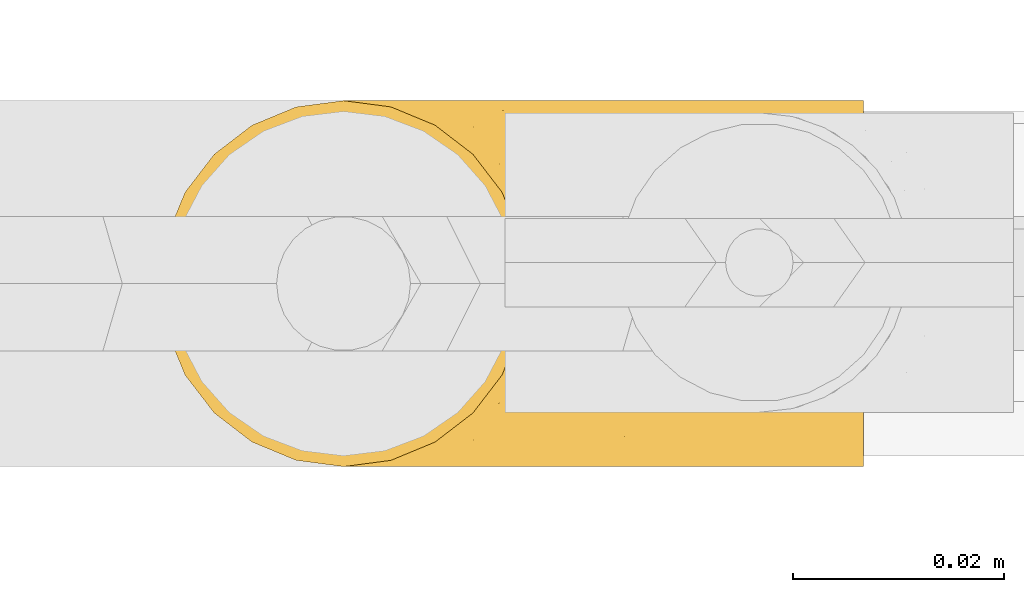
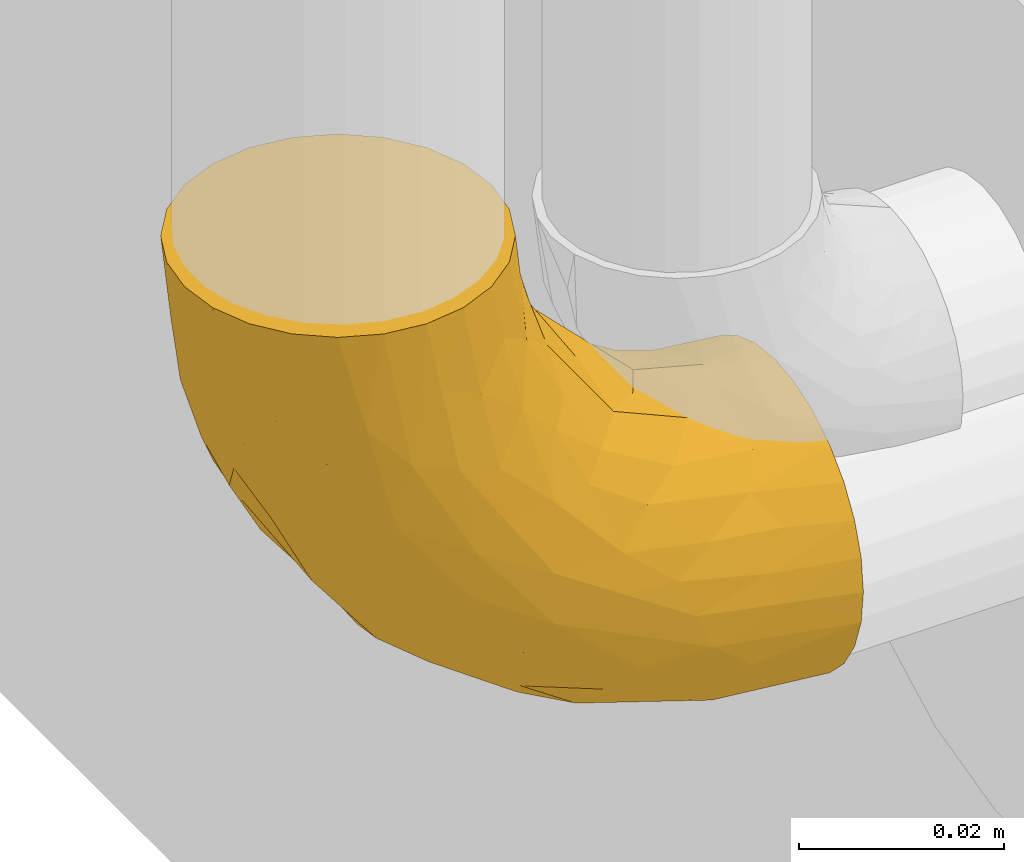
# One storey, part 6 of 32: 1 covering.
"""IFC2X3 building model written with IfcOpenShell, lengths in metres."""

from ifc_helpers import new_model, entity, si_unit, converted_unit, derived_unit, direction, frame, origin, place, context, subcontext, project, spatial, faceted_brep, material, type_object, element, save


model = new_model("IFC2X3")

# Units and contexts
model_context = context("Model", 3, precision=1e-05, world=origin(), true_north=direction((6.123031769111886e-17, 1.0)))
body_context = subcontext(model_context, "Body", "Model", "MODEL_VIEW")
ifc_project = project(units=[si_unit("LENGTHUNIT", "METRE"), si_unit("AREAUNIT", "SQUARE_METRE"), si_unit("VOLUMEUNIT", "CUBIC_METRE"), converted_unit("PLANEANGLEUNIT", "DEGREE", entity("IfcPlaneAngleMeasure", 0.017453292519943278), si_unit("PLANEANGLEUNIT", "RADIAN"), dimensions=[0, 0, 0, 0, 0, 0, 0]), si_unit("MASSUNIT", "GRAM", prefix="KILO"), derived_unit("MASSDENSITYUNIT", [(si_unit("MASSUNIT", "GRAM", prefix="KILO"), 1), (si_unit("LENGTHUNIT", "METRE"), -3)]), derived_unit("IONCONCENTRATIONUNIT", [(si_unit("MASSUNIT", "GRAM", prefix="KILO"), 1), (si_unit("LENGTHUNIT", "METRE"), -3)]), derived_unit("MOMENTOFINERTIAUNIT", [(si_unit("LENGTHUNIT", "METRE"), 4)]), si_unit("TIMEUNIT", "SECOND"), si_unit("FREQUENCYUNIT", "HERTZ"), si_unit("THERMODYNAMICTEMPERATUREUNIT", "DEGREE_CELSIUS"), derived_unit("THERMALTRANSMITTANCEUNIT", [(si_unit("MASSUNIT", "GRAM", prefix="KILO"), 1), (si_unit("THERMODYNAMICTEMPERATUREUNIT", "KELVIN"), -1), (si_unit("TIMEUNIT", "SECOND"), -3)]), derived_unit("THERMALCONDUCTANCEUNIT", [(si_unit("MASSUNIT", "GRAM", prefix="KILO"), 1), (si_unit("THERMODYNAMICTEMPERATUREUNIT", "KELVIN"), -1), (si_unit("TIMEUNIT", "SECOND"), -3), (si_unit("LENGTHUNIT", "METRE"), 1)]), derived_unit("VOLUMETRICFLOWRATEUNIT", [(si_unit("LENGTHUNIT", "METRE", prefix="DECI"), 3), (si_unit("TIMEUNIT", "SECOND"), -1)]), derived_unit("MASSFLOWRATEUNIT", [(si_unit("MASSUNIT", "GRAM", prefix="KILO"), 1), (si_unit("TIMEUNIT", "SECOND"), -1)]), derived_unit("ROTATIONALFREQUENCYUNIT", [(si_unit("TIMEUNIT", "SECOND"), -1)]), si_unit("ELECTRICCURRENTUNIT", "AMPERE"), si_unit("ELECTRICVOLTAGEUNIT", "VOLT"), si_unit("POWERUNIT", "WATT"), si_unit("FORCEUNIT", "NEWTON", prefix="KILO"), si_unit("ILLUMINANCEUNIT", "LUX"), si_unit("LUMINOUSFLUXUNIT", "LUMEN"), si_unit("LUMINOUSINTENSITYUNIT", "CANDELA"), si_unit("ENERGYUNIT", "JOULE"), derived_unit("USERDEFINED", [(si_unit("MASSUNIT", "GRAM", prefix="KILO"), -1), (si_unit("LENGTHUNIT", "METRE"), -2), (si_unit("TIMEUNIT", "SECOND"), 3), (si_unit("LUMINOUSFLUXUNIT", "LUMEN"), 1)]), derived_unit("USERDEFINED", [(si_unit("MASSUNIT", "GRAM", prefix="KILO"), 1), (si_unit("TIMEUNIT", "SECOND"), -3), (si_unit("LENGTHUNIT", "METRE"), 3), (si_unit("ELECTRICCURRENTUNIT", "AMPERE"), -2)]), derived_unit("SOUNDPOWERUNIT", [(si_unit("MASSUNIT", "GRAM", prefix="KILO"), 1), (si_unit("TIMEUNIT", "SECOND"), -3), (si_unit("LENGTHUNIT", "METRE"), 2)]), derived_unit("SOUNDPRESSUREUNIT", [(si_unit("MASSUNIT", "GRAM", prefix="KILO"), 1), (si_unit("LENGTHUNIT", "METRE"), -1), (si_unit("TIMEUNIT", "SECOND"), -2)]), derived_unit("LINEARVELOCITYUNIT", [(si_unit("LENGTHUNIT", "METRE"), 1), (si_unit("TIMEUNIT", "SECOND"), -1)]), si_unit("PRESSUREUNIT", "PASCAL"), derived_unit("USERDEFINED", [(si_unit("MASSUNIT", "GRAM", prefix="KILO"), 1), (si_unit("LENGTHUNIT", "METRE"), -2), (si_unit("TIMEUNIT", "SECOND"), -2)]), derived_unit("LINEARFORCEUNIT", [(si_unit("MASSUNIT", "GRAM", prefix="KILO"), 1), (si_unit("TIMEUNIT", "SECOND"), -2)]), derived_unit("PLANARFORCEUNIT", [(si_unit("MASSUNIT", "GRAM", prefix="KILO"), 1), (si_unit("LENGTHUNIT", "METRE"), -1), (si_unit("TIMEUNIT", "SECOND"), -2)]), derived_unit("SPECIFICHEATCAPACITYUNIT", [(si_unit("THERMODYNAMICTEMPERATUREUNIT", "KELVIN"), -1), (si_unit("LENGTHUNIT", "METRE"), 2), (si_unit("TIMEUNIT", "SECOND"), -2)]), derived_unit("HEATFLUXDENSITYUNIT", [(si_unit("MASSUNIT", "GRAM", prefix="KILO"), 1), (si_unit("TIMEUNIT", "SECOND"), -3)]), derived_unit("HEATINGVALUEUNIT", [(si_unit("LENGTHUNIT", "METRE"), 2), (si_unit("TIMEUNIT", "SECOND"), -2)]), derived_unit("VAPORPERMEABILITYUNIT", [(si_unit("LENGTHUNIT", "METRE"), -1), (si_unit("TIMEUNIT", "SECOND"), 1)]), derived_unit("DYNAMICVISCOSITYUNIT", [(si_unit("MASSUNIT", "GRAM", prefix="KILO"), 1), (si_unit("TIMEUNIT", "SECOND"), -1), (si_unit("LENGTHUNIT", "METRE"), -1)]), derived_unit("THERMALEXPANSIONCOEFFICIENTUNIT", [(si_unit("THERMODYNAMICTEMPERATUREUNIT", "KELVIN"), -1)]), derived_unit("MODULUSOFELASTICITYUNIT", [(si_unit("MASSUNIT", "GRAM", prefix="KILO"), 1), (si_unit("LENGTHUNIT", "METRE"), -1), (si_unit("TIMEUNIT", "SECOND"), -2)]), derived_unit("ISOTHERMALMOISTURECAPACITYUNIT", [(si_unit("MASSUNIT", "GRAM", prefix="KILO"), -1), (si_unit("LENGTHUNIT", "METRE"), 3)]), derived_unit("MOISTUREDIFFUSIVITYUNIT", [(si_unit("TIMEUNIT", "SECOND"), -1), (si_unit("LENGTHUNIT", "METRE"), 2)]), derived_unit("MASSPERLENGTHUNIT", [(si_unit("MASSUNIT", "GRAM", prefix="KILO"), 1), (si_unit("LENGTHUNIT", "METRE"), -1)]), derived_unit("THERMALRESISTANCEUNIT", [(si_unit("MASSUNIT", "GRAM", prefix="KILO"), -1), (si_unit("TIMEUNIT", "SECOND"), 3), (si_unit("THERMODYNAMICTEMPERATUREUNIT", "KELVIN"), 1)]), derived_unit("ACCELERATIONUNIT", [(si_unit("LENGTHUNIT", "METRE"), 1), (si_unit("TIMEUNIT", "SECOND"), -2)]), derived_unit("ANGULARVELOCITYUNIT", [(si_unit("TIMEUNIT", "SECOND"), -1), (si_unit("PLANEANGLEUNIT", "RADIAN"), 1)]), derived_unit("LINEARSTIFFNESSUNIT", [(si_unit("MASSUNIT", "GRAM", prefix="KILO"), 1), (si_unit("TIMEUNIT", "SECOND"), -2)]), derived_unit("WARPINGCONSTANTUNIT", [(si_unit("LENGTHUNIT", "METRE"), 6)]), derived_unit("LINEARMOMENTUNIT", [(si_unit("MASSUNIT", "GRAM", prefix="KILO"), 1), (si_unit("LENGTHUNIT", "METRE"), 1), (si_unit("TIMEUNIT", "SECOND"), -2)]), derived_unit("TORQUEUNIT", [(si_unit("MASSUNIT", "GRAM", prefix="KILO"), 1), (si_unit("LENGTHUNIT", "METRE"), 2), (si_unit("TIMEUNIT", "SECOND"), -2)])], contexts=[model_context])

# Site, building, storey
site_placement = place(None, origin())
site = spatial("IfcSite", under=ifc_project, at=site_placement, Name="Default", CompositionType="ELEMENT")
building_placement = place(site_placement, origin())
building = spatial("IfcBuilding", under=site, at=building_placement, CompositionType="ELEMENT")
storey_placement = place(building_placement, origin())
storey = spatial("IfcBuildingStorey", under=building, at=storey_placement, Name="Niveau 0", CompositionType="ELEMENT", Elevation=-1.949160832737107e-14)

# Covering
ifc_material = material(Name="Matériau du rendu 255-255-255")
covering_type = type_object("IfcCoveringType", Name="Isolation des canalisations:Par défaut", PredefinedType="INSULATION")
covering_placement = place(storey_placement, frame((-15.029293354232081, 1.3561078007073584, -0.36410472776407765)))
element("IfcCovering", 1, at=covering_placement, inside=storey, type_object=covering_type, material=ifc_material, Name="Isolation des canalisations:Par défaut", ObjectType="Isolation des canalisations:Par défaut", PredefinedType="INSULATION", context=body_context, shape_type="Brep", body=[
    faceted_brep([(0.06824527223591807, 0.005382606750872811, -0.061715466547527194), (0.06824527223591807, 0.008130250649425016, -0.06446206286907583), (0.06824527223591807, 0.011419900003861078, -0.0665282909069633), (0.06824527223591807, 0.015086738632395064, -0.06781077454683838), (0.06824527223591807, 0.018945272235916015, -0.06824527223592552), (0.06824527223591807, 0.022807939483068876, -0.06780983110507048), (0.06824527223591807, 0.026475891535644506, -0.06652576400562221), (0.06824527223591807, 0.029765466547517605, -0.06445793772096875), (0.06824527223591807, 0.03251206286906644, -0.06171029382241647), (0.06824527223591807, 0.03457829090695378, -0.058420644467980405), (0.06824527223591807, 0.035860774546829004, -0.054753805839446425), (0.06824527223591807, 0.03629527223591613, -0.0508952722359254), (0.06824527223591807, 0.03585983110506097, -0.04703260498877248), (0.06824527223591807, 0.034575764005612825, -0.04336465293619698), (0.06824527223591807, 0.032507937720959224, -0.04007507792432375), (0.06824527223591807, 0.029760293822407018, -0.03732848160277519), (0.06824527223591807, 0.026470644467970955, -0.03526225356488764), (0.06824527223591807, 0.02280380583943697, -0.03397976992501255), (0.06824527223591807, 0.018945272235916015, -0.03354527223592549), (0.06824527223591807, 0.015082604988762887, -0.03398071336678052), (0.06824527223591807, 0.011414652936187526, -0.0352647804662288), (0.06824527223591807, 0.008125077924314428, -0.03733260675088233), (0.06824527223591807, 0.005378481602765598, -0.04008025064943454), (0.06824527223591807, 0.0033122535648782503, -0.0433699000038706), (0.06824527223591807, 0.0020297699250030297, -0.04703673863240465), (0.06824527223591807, 0.0015952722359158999, -0.05089527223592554), (0.06824527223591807, 0.0020307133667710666, -0.054757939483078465), (0.06824527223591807, 0.003314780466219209, -0.05842589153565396), (0.03570408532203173, 0.023435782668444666, -0.0015952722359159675), (0.033970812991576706, 0.02762027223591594, -0.0015952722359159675), (0.031213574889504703, 0.03121357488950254, -0.0015952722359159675), (0.027620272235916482, 0.033970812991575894, -0.0015952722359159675), (0.02343578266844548, 0.03570408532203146, -0.0015952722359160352), (0.018945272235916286, 0.03629527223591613, -0.0015952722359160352), (0.014454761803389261, 0.03570408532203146, -0.0015952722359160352), (0.010270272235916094, 0.033970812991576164, -0.0015952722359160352), (0.006676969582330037, 0.03121357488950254, -0.0015952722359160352), (0.003919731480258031, 0.02762027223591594, -0.0015952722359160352), (0.0021864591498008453, 0.023435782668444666, -0.0015952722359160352), (0.0015952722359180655, 0.018945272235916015, -0.0015952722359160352), (0.0021864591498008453, 0.014454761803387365, -0.0015952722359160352), (0.003919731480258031, 0.010270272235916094, -0.0015952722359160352), (0.006676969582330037, 0.006676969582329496, -0.0015952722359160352), (0.010270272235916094, 0.003919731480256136, -0.0015952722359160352), (0.014454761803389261, 0.0021864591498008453, -0.0015952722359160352), (0.018945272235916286, 0.0015952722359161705, -0.0015952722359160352), (0.02343578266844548, 0.0021864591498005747, -0.0015952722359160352), (0.027620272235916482, 0.003919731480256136, -0.0015952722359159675), (0.031213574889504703, 0.006676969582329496, -0.0015952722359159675), (0.033970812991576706, 0.010270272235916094, -0.0015952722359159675), (0.03570408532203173, 0.014454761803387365, -0.0015952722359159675), (0.03629527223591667, 0.018945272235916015, -0.0015952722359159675), (0.024367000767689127, 0.006555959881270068, -0.044610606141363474), (0.04088020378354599, 0.005439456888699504, -0.055206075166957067), (0.031240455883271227, 0.004103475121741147, -0.04662716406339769), (0.005317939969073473, 0.01574101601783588, -0.022635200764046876), (0.004958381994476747, 0.018945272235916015, -0.018502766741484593), (0.006668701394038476, 0.018945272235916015, -0.027101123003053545), (0.009728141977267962, 0.00907453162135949, -0.02642879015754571), (0.015760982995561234, 0.0072079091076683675, -0.03474610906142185), (0.014206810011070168, 0.005147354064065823, -0.0272488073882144), (0.004776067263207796, 0.012649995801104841, -0.017647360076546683), (0.005987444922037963, 0.008689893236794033, -0.013004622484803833), (0.03372303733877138, 0.0022082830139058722, -0.042951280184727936), (0.03338490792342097, 0.0015952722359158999, -0.03645563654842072), (0.024904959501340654, 0.0019132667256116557, -0.03141249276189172), (0.0520130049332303, 0.007137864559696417, -0.06144561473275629), (0.033276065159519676, 0.00800033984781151, -0.05371291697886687), (0.017585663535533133, 0.0020764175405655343, -0.018347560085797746), (0.016675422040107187, 0.0034977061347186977, -0.026339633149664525), (0.03669274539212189, 0.014726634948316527, -0.059711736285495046), (0.0520459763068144, 0.013536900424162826, -0.06535510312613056), (0.04090792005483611, 0.010439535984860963, -0.05992934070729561), (0.010004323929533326, 0.005627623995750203, -0.017676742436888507), (0.04937897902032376, 0.0015952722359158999, -0.04714253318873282), (0.04138194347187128, 0.0015952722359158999, -0.041799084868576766), (0.013063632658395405, 0.0031065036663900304, -0.013167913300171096), (0.013097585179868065, 0.013931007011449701, -0.03768974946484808), (0.02105801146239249, 0.015117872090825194, -0.04805807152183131), (0.02491877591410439, 0.011641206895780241, -0.05009999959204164), (0.055492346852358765, 0.018945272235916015, -0.06570855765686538), (0.015418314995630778, 0.010347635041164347, -0.03837572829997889), (0.008103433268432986, 0.01328248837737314, -0.028042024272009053), (0.055995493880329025, 0.010029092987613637, -0.0645991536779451), (0.04273942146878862, 0.018945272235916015, -0.06317184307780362), (0.05979152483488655, 0.0015952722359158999, -0.04921371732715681), (0.051512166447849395, 0.001975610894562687, -0.05179267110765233), (0.055921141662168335, 0.004579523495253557, -0.05932311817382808), (0.024527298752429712, 0.0030418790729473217, -0.036967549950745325), (0.05642461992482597, 0.0028640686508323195, -0.056142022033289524), (0.02004693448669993, 0.004804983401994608, -0.036232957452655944), (0.04390302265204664, 0.003093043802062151, -0.05241841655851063), (0.028041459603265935, 0.0015952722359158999, -0.028458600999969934), (0.022698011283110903, 0.0015952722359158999, -0.02046156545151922), (0.058812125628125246, 0.0015952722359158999, -0.04901890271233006), (0.03192801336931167, 0.018945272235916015, -0.05594789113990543), (0.02253776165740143, 0.009051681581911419, -0.04575145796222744), (0.01389265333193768, 0.018945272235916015, -0.03791253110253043), (0.020626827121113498, 0.0015952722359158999, -0.010049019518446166), (0.02111660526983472, 0.018945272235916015, -0.04872393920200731), (0.060126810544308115, 0.009148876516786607, -0.03562046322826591), (0.025545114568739, 0.00238146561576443, -0.012762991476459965), (0.038163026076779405, 0.008176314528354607, -0.020812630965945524), (0.0336986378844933, 0.007611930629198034, -0.012286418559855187), (0.03585312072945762, 0.005320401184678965, -0.022511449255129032), (0.047583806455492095, 0.0019279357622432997, -0.04260303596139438), (0.057936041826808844, 0.002136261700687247, -0.04539970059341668), (0.05179104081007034, 0.00324715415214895, -0.04014164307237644), (0.02744829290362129, 0.001986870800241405, -0.022043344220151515), (0.0312463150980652, 0.004104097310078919, -0.0176025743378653), (0.05558856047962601, 0.01590243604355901, -0.031224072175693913), (0.06109218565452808, 0.014076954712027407, -0.0334490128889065), (0.05996125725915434, 0.018945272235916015, -0.03132557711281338), (0.04550906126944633, 0.004444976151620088, -0.03422892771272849), (0.041544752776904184, 0.002253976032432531, -0.03727571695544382), (0.02949372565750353, 0.004675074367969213, -0.0088873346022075), (0.03852252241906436, 0.01525623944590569, -0.014357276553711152), (0.03851496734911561, 0.018945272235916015, -0.009879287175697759), (0.03659242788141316, 0.015925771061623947, -0.007585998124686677), (0.05797141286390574, 0.005932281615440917, -0.037997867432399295), (0.050197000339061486, 0.007500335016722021, -0.03304464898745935), (0.0360384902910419, 0.012735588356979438, -0.009229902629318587), (0.038175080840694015, 0.011387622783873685, -0.01677085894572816), (0.060504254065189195, 0.003758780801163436, -0.04176616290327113), (0.04525391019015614, 0.010632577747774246, -0.026739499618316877), (0.041414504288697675, 0.0064510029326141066, -0.027451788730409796), (0.052270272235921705, 0.018945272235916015, -0.029264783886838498), (0.04415845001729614, 0.015064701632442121, -0.023249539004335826), (0.04057576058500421, 0.018945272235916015, -0.017570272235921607), (0.03407046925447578, 0.0025144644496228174, -0.028875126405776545), (0.05464264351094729, 0.012455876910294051, -0.031890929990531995), (0.04949521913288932, 0.014233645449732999, -0.02826597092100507), (0.04642301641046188, 0.018945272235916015, -0.02341752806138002), (0.03870099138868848, 0.00404031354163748, -0.029179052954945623), (0.033698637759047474, 0.0302786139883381, -0.01228641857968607), (0.060126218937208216, 0.028736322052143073, -0.0356165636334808), (0.057965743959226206, 0.03195404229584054, -0.037991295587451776), (0.036592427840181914, 0.021964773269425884, -0.007585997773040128), (0.04759427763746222, 0.0359598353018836, -0.04259271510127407), (0.04138194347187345, 0.03629527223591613, -0.041799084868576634), (0.041549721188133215, 0.03562917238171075, -0.03724696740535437), (0.050196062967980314, 0.030383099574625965, -0.033036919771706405), (0.04141450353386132, 0.0314395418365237, -0.027451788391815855), (0.03870907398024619, 0.03385103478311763, -0.029189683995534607), (0.035853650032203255, 0.03257390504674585, -0.02252106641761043), (0.061095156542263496, 0.02380588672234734, -0.03344737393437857), (0.03407046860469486, 0.03537608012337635, -0.028875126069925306), (0.027448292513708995, 0.035903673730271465, -0.02204334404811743), (0.031246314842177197, 0.03378644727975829, -0.017602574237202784), (0.025545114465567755, 0.03550907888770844, -0.012762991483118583), (0.020626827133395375, 0.03629527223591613, -0.01004901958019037), (0.06049677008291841, 0.034129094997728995, -0.0417598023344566), (0.05793180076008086, 0.03575312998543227, -0.045394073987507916), (0.05177761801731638, 0.03464128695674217, -0.04013105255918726), (0.036038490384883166, 0.025154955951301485, -0.009229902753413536), (0.029493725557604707, 0.03321547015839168, -0.008887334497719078), (0.04552472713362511, 0.03343785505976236, -0.034225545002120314), (0.038522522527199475, 0.022634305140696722, -0.014357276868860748), (0.04948512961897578, 0.02365546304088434, -0.028258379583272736), (0.04523640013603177, 0.027243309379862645, -0.026712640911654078), (0.04414337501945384, 0.0228202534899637, -0.023230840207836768), (0.055589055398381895, 0.02198481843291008, -0.031223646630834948), (0.05465211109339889, 0.02542902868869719, -0.031892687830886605), (0.03817508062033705, 0.026502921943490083, -0.016770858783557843), (0.05979152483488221, 0.03629527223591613, -0.04921371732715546), (0.058812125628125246, 0.03629527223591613, -0.04901890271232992), (0.04937897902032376, 0.03629527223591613, -0.04714253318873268), (0.022698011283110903, 0.03629527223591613, -0.02046156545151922), (0.028041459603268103, 0.03629527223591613, -0.028458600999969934), (0.03815555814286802, 0.02971725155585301, -0.020805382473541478), (0.033384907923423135, 0.03629527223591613, -0.03645563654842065), (0.014201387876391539, 0.03274603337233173, -0.027228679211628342), (0.01576489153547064, 0.030676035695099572, -0.03476363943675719), (0.009728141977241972, 0.028816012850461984, -0.026428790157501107), (0.005317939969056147, 0.022149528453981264, -0.022635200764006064), (0.008103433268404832, 0.02460805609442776, -0.02804202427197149), (0.013097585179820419, 0.023959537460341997, -0.037689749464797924), (0.04091580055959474, 0.027456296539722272, -0.059929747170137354), (0.05204814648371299, 0.024358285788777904, -0.06535408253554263), (0.036682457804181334, 0.02316674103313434, -0.05970534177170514), (0.04088029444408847, 0.032454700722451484, -0.05520108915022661), (0.03122945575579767, 0.03379273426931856, -0.04660600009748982), (0.043922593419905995, 0.034799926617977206, -0.05242173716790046), (0.03375784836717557, 0.03568426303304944, -0.04297076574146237), (0.017583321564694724, 0.03581412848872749, -0.018340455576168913), (0.016675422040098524, 0.034392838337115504, -0.02633963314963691), (0.020027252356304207, 0.03308122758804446, -0.03621599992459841), (0.013061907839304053, 0.034783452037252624, -0.013166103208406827), (0.004776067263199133, 0.025240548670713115, -0.01764736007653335), (0.055993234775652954, 0.02786657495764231, -0.06459558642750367), (0.005987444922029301, 0.02920065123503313, -0.013004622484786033), (0.015398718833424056, 0.027538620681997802, -0.0383518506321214), (0.010004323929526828, 0.032262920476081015, -0.01767674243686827), (0.055922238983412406, 0.03331443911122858, -0.05931818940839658), (0.05201579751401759, 0.030757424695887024, -0.06144180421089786), (0.0515152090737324, 0.03591577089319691, -0.051789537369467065), (0.04090335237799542, 0.030163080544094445, -0.057836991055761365), (0.02436700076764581, 0.03133458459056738, -0.044610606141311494), (0.05668309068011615, 0.03503855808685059, -0.0561668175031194), (0.021070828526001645, 0.022776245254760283, -0.04806993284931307), (0.02491672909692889, 0.026257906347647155, -0.05009283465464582), (0.02489962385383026, 0.035975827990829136, -0.031417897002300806), (0.024551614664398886, 0.034842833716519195, -0.03701879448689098), (0.022503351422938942, 0.02884064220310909, -0.04571403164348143), (0.0315371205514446, 0.028622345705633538, -0.0536555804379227)], [[[0, 1, 2, 3, 4, 5, 6, 7, 8, 9, 10, 11, 12, 13, 14, 15, 16, 17, 18, 19, 20, 21, 22, 23, 24, 25, 26, 27]], [[28, 29, 30, 31, 32, 33, 34, 35, 36, 37, 38, 39, 40, 41, 42, 43, 44, 45, 46, 47, 48, 49, 50, 51]], [[52, 53, 54]], [[55, 56, 57]], [[58, 59, 60]], [[61, 58, 62]], [[63, 64, 65]], [[61, 41, 40]], [[66, 53, 67]], [[68, 69, 65]], [[70, 71, 72]], [[62, 73, 42]], [[63, 74, 75, 64]], [[45, 44, 68]], [[69, 68, 76]], [[77, 78, 79]], [[42, 73, 43]], [[80, 4, 3]], [[58, 81, 59]], [[61, 55, 82]], [[71, 2, 83]], [[84, 71, 70]], [[83, 2, 1]], [[3, 71, 80]], [[71, 84, 80]], [[77, 55, 57]], [[2, 71, 3]], [[0, 66, 1]], [[26, 25, 85]], [[63, 86, 74]], [[66, 87, 53]], [[62, 42, 41]], [[63, 65, 88]], [[26, 86, 89]], [[40, 56, 55]], [[73, 60, 76]], [[83, 72, 71]], [[90, 59, 52]], [[40, 55, 61]], [[87, 66, 0]], [[1, 66, 83]], [[87, 0, 27]], [[72, 83, 66]], [[91, 89, 86]], [[53, 87, 91]], [[54, 53, 91]], [[67, 53, 52]], [[63, 54, 91]], [[54, 88, 90]], [[91, 87, 89]], [[65, 64, 92, 93]], [[86, 63, 91]], [[86, 85, 94, 74]], [[26, 85, 86]], [[70, 72, 79]], [[78, 95, 70]], [[67, 79, 72]], [[59, 81, 96]], [[40, 39, 56]], [[77, 57, 97]], [[82, 55, 77]], [[87, 27, 89]], [[26, 89, 27]], [[81, 82, 77]], [[58, 61, 82]], [[68, 65, 93]], [[88, 65, 69]], [[68, 93, 98, 45]], [[76, 68, 44]], [[90, 88, 69]], [[54, 63, 88]], [[60, 90, 69]], [[54, 90, 52]], [[59, 90, 60]], [[82, 81, 58]], [[77, 79, 81]], [[96, 81, 79]], [[44, 43, 76]], [[73, 76, 43]], [[61, 62, 41]], [[73, 62, 58]], [[76, 60, 69]], [[60, 73, 58]], [[70, 79, 78]], [[95, 84, 70]], [[67, 52, 96]], [[78, 97, 99]], [[66, 67, 72]], [[97, 78, 77]], [[78, 99, 95]], [[67, 96, 79]], [[59, 96, 52]], [[100, 21, 20]], [[93, 101, 98]], [[102, 103, 104]], [[98, 101, 46]], [[105, 106, 107]], [[108, 109, 101]], [[110, 111, 112]], [[92, 108, 93]], [[113, 114, 107]], [[47, 115, 48]], [[116, 117, 118]], [[49, 48, 103]], [[119, 100, 120]], [[100, 119, 21]], [[121, 122, 116]], [[119, 120, 113]], [[103, 122, 121]], [[115, 103, 48]], [[119, 107, 123]], [[123, 23, 22]], [[118, 51, 50]], [[23, 106, 24]], [[106, 74, 94]], [[46, 101, 47]], [[115, 101, 109]], [[123, 106, 23]], [[124, 125, 120]], [[19, 18, 112]], [[119, 22, 21]], [[110, 112, 126]], [[111, 20, 19]], [[114, 75, 105]], [[116, 127, 128]], [[122, 127, 116]], [[64, 129, 92]], [[106, 94, 24]], [[111, 100, 20]], [[109, 129, 104]], [[130, 124, 120]], [[130, 120, 100]], [[120, 125, 113]], [[130, 110, 131]], [[102, 124, 122]], [[121, 118, 50]], [[24, 94, 85, 25]], [[128, 117, 116]], [[127, 122, 124]], [[131, 124, 130]], [[131, 132, 127]], [[119, 123, 22]], [[106, 123, 107]], [[108, 101, 93]], [[113, 107, 119]], [[129, 133, 104]], [[125, 133, 113]], [[113, 133, 114]], [[129, 64, 114]], [[75, 74, 105]], [[92, 129, 108]], [[109, 108, 129]], [[46, 45, 98]], [[111, 110, 130]], [[126, 131, 110]], [[124, 131, 127]], [[111, 130, 100]], [[112, 111, 19]], [[50, 49, 121]], [[103, 121, 49]], [[101, 115, 47]], [[103, 115, 109]], [[116, 118, 121]], [[51, 118, 117]], [[133, 125, 104]], [[114, 133, 129]], [[102, 104, 125]], [[103, 109, 104]], [[124, 102, 125]], [[103, 102, 122]], [[114, 64, 75]], [[106, 105, 74]], [[107, 114, 105]], [[132, 131, 126]], [[132, 128, 127]], [[30, 29, 134]], [[135, 15, 136]], [[51, 117, 137]], [[138, 139, 140]], [[141, 135, 136]], [[142, 143, 144]], [[145, 112, 17]], [[146, 147, 148]], [[149, 150, 32]], [[151, 152, 153]], [[134, 29, 154]], [[155, 31, 30]], [[15, 135, 16]], [[149, 32, 31]], [[156, 141, 136]], [[157, 117, 128]], [[158, 159, 160]], [[126, 112, 161]], [[161, 145, 162]], [[155, 149, 31]], [[154, 28, 137]], [[14, 151, 136]], [[15, 14, 136]], [[145, 16, 135]], [[135, 141, 162]], [[14, 13, 151]], [[13, 12, 152]], [[146, 144, 143]], [[143, 140, 146]], [[159, 163, 160]], [[12, 11, 164, 165]], [[12, 165, 152]], [[138, 152, 166]], [[141, 159, 162]], [[155, 134, 148]], [[112, 18, 17]], [[167, 147, 168]], [[144, 169, 142]], [[145, 135, 162]], [[156, 136, 153]], [[141, 142, 159]], [[169, 159, 142]], [[157, 160, 163]], [[157, 128, 160]], [[166, 152, 165]], [[154, 137, 157]], [[157, 163, 154]], [[158, 132, 126]], [[126, 161, 158]], [[152, 151, 13]], [[136, 151, 153]], [[168, 146, 170]], [[149, 147, 167]], [[156, 142, 141]], [[140, 156, 153]], [[143, 142, 156]], [[140, 153, 138]], [[170, 146, 140]], [[148, 147, 149]], [[146, 168, 147]], [[150, 149, 167]], [[150, 33, 32]], [[158, 161, 162]], [[159, 158, 162]], [[160, 132, 158]], [[112, 145, 161]], [[16, 145, 17]], [[134, 154, 163]], [[29, 28, 154]], [[134, 155, 30]], [[149, 155, 148]], [[51, 137, 28]], [[157, 137, 117]], [[140, 143, 156]], [[144, 146, 148]], [[148, 134, 144]], [[169, 134, 163]], [[134, 169, 144]], [[159, 169, 163]], [[139, 138, 166]], [[139, 170, 140]], [[152, 138, 153]], [[160, 128, 132]], [[171, 172, 173]], [[174, 175, 176]], [[177, 178, 179]], [[180, 181, 182]], [[183, 182, 181]], [[184, 33, 150, 167]], [[171, 185, 186]], [[184, 187, 34]], [[174, 38, 188]], [[177, 189, 178]], [[36, 190, 37]], [[176, 175, 191]], [[192, 36, 35]], [[37, 190, 188]], [[174, 176, 57]], [[193, 8, 194]], [[183, 166, 195]], [[175, 174, 188]], [[195, 166, 165, 164]], [[56, 174, 57]], [[7, 194, 8]], [[196, 197, 180]], [[179, 178, 84]], [[9, 193, 198]], [[8, 193, 9]], [[190, 192, 173]], [[179, 95, 199]], [[189, 6, 178]], [[193, 180, 182]], [[6, 189, 7]], [[5, 80, 178]], [[177, 179, 200]], [[201, 170, 183]], [[177, 194, 189]], [[37, 188, 38]], [[178, 6, 5]], [[194, 177, 196]], [[164, 11, 10]], [[187, 192, 35]], [[167, 201, 184]], [[194, 7, 189]], [[180, 193, 194]], [[198, 182, 195]], [[196, 180, 194]], [[181, 180, 197]], [[185, 202, 186]], [[201, 167, 168, 170]], [[201, 202, 185]], [[183, 170, 139, 166]], [[195, 182, 183]], [[164, 10, 195]], [[198, 10, 9]], [[199, 95, 99]], [[200, 199, 176]], [[191, 173, 172]], [[200, 203, 204]], [[174, 56, 38]], [[56, 39, 38]], [[199, 97, 176]], [[182, 198, 193]], [[10, 198, 195]], [[188, 173, 175]], [[191, 175, 173]], [[202, 201, 183]], [[184, 201, 185]], [[187, 184, 185]], [[33, 184, 34]], [[183, 181, 202]], [[186, 181, 197]], [[181, 186, 202]], [[186, 197, 172]], [[191, 203, 200]], [[171, 173, 192]], [[203, 172, 197]], [[200, 176, 191]], [[187, 185, 171]], [[35, 34, 187]], [[192, 190, 36]], [[188, 190, 173]], [[172, 171, 186]], [[187, 171, 192]], [[179, 84, 95]], [[80, 5, 4]], [[80, 84, 178]], [[97, 57, 176]], [[177, 200, 204]], [[179, 199, 200]], [[97, 199, 99]], [[172, 203, 191]], [[204, 197, 196]], [[197, 204, 203]], [[177, 204, 196]]]),
])

save(model, "model.ifc")
